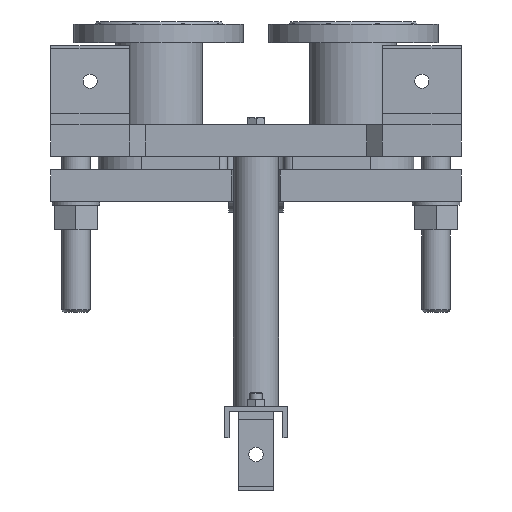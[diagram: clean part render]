
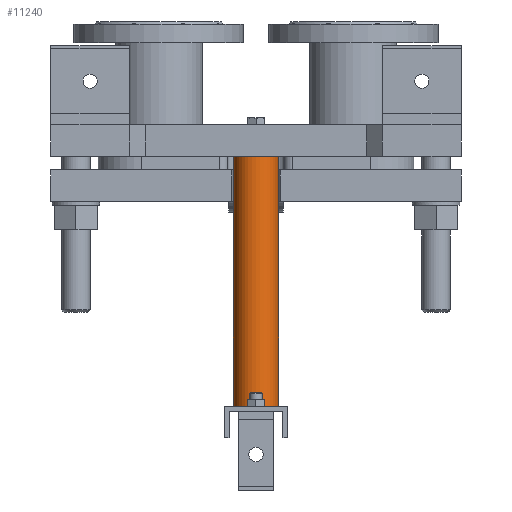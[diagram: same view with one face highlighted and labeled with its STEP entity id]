
A CAD part, front view. The second image highlights one B-rep face of the part: STEP entity #11240.
In plain terms, the highlighted cylindrical face has radius 28.5 mm (diameter 57 mm), a full revolution.
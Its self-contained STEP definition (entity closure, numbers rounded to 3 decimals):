
#781=LINE('',#22043,#1754);
#1754=VECTOR('',#14569,28.5);
#2333=CYLINDRICAL_SURFACE('',#12263,28.5);
#2995=FACE_OUTER_BOUND('',#3777,.T.);
#3777=EDGE_LOOP('',(#9013,#9014,#9015,#9016));
#4462=CIRCLE('',#12264,28.5);
#4463=CIRCLE('',#12265,28.5);
#5286=VERTEX_POINT('',#22040);
#5287=VERTEX_POINT('',#22042);
#6596=EDGE_CURVE('',#5286,#5286,#4462,.T.);
#6597=EDGE_CURVE('',#5286,#5287,#781,.T.);
#6598=EDGE_CURVE('',#5287,#5287,#4463,.T.);
#9013=ORIENTED_EDGE('',*,*,#6596,.F.);
#9014=ORIENTED_EDGE('',*,*,#6597,.T.);
#9015=ORIENTED_EDGE('',*,*,#6598,.T.);
#9016=ORIENTED_EDGE('',*,*,#6597,.F.);
#11240=ADVANCED_FACE('',(#2995),#2333,.T.);
#12263=AXIS2_PLACEMENT_3D('',#22039,#14565,#14566);
#12264=AXIS2_PLACEMENT_3D('',#22041,#14567,#14568);
#12265=AXIS2_PLACEMENT_3D('',#22044,#14570,#14571);
#14565=DIRECTION('center_axis',(0.,0.,
-1.));
#14566=DIRECTION('ref_axis',(-1.,0.,0.));
#14567=DIRECTION('center_axis',(0.,0.,
-1.));
#14568=DIRECTION('ref_axis',(-1.,0.,0.));
#14569=DIRECTION('',(0.,0.,1.));
#14570=DIRECTION('center_axis',(0.,0.,
-1.));
#14571=DIRECTION('ref_axis',(-1.,0.,0.));
#22039=CARTESIAN_POINT('Origin',(0.,215.,0.));
#22040=CARTESIAN_POINT('',(28.5,215.,-316.5));
#22041=CARTESIAN_POINT('Origin',(0.,215.,-316.5));
#22042=CARTESIAN_POINT('',(28.5,215.,0.));
#22043=CARTESIAN_POINT('',(28.5,215.,0.));
#22044=CARTESIAN_POINT('Origin',(0.,215.,0.));
